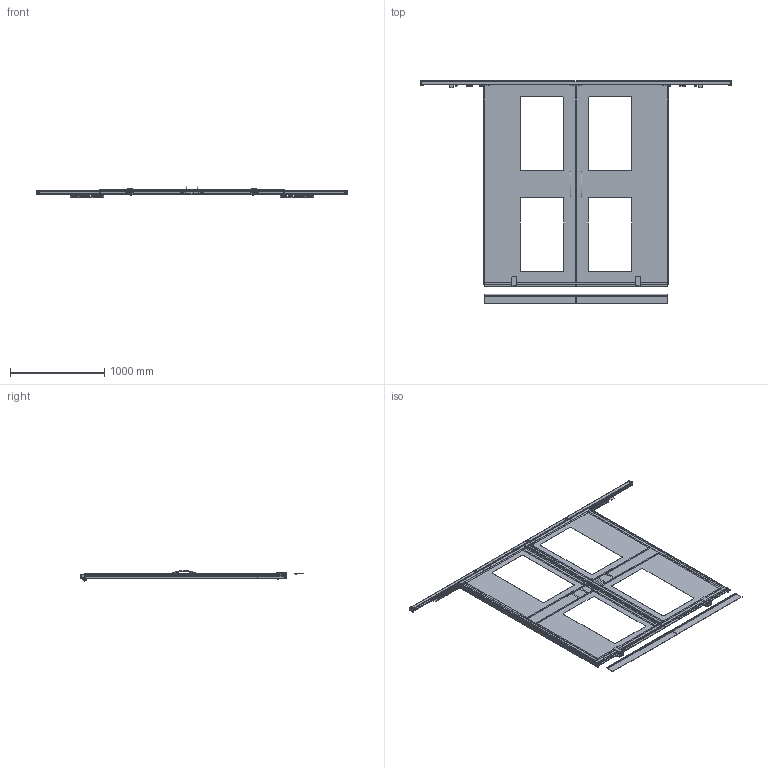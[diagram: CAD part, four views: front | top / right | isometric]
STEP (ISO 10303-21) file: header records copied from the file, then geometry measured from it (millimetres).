
FILE_DESCRIPTION((''),'2;1');
FILE_NAME('C:\Users\KYLEB\Desktop\Aisle Containment Doors\ACD840ES\ACD840ES.stp','2011-06-27T10:07:28',('KyleB'),(''),'Autodesk Inventor 2011','Autodesk Inventor 2011','');
FILE_SCHEMA(('AUTOMOTIVE_DESIGN { 1 0 10303 214 1 1 1 1 }'));
Length unit declared in the file: inch
Products named in the file (54): I011119; I011128; I011131; I011142; I011130; I011129; I011144; P1006-1420; 14-20X500; I011120; I011121; I011122; I011126; SS0322; I011127; I011136; I012493; XM01 [LENGTH=81.875 in]; I011145; H01-068; P2749N; P2-41; H03-015; H01-047; LIB-14485; I011123; I011124; I011125; I011143; I011143 6'; I011143 11in; I011134; I011135; I011137; I011140; FH0328; I011141; 10-32STOPNUT; 1420X12CARR; 1420FLANGE NUT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
Assembly tree (139 placements, depth 5):
  I011119
    I011128
      I011131
      I011142
      I011130
      I011129
    I011144  x2
    P1006-1420  x2
    14-20X500  x2
    I011120
      I011121
        I011122
        I011126
          I011126
          SS0322  x8
        I011127
        I011136
        I012493  x2
      XM01 [LENGTH=81.875 in]
      I011145  x2
        I011145
        SS0322
      H01-068  x6
      P2749N  x2
      P2-41  x2
      H03-015  x2
      H01-047  x2
      LIB-14485
    I011123
      I011124
        I011125
        I011126
          I011126
          SS0322  x8
        I011127
        I011136
        I012493  x2
      I011145  x2
        I011145
        SS0322
      H01-068  x6
      P2749N  x2
      P2-41  x2
      LIB-14485
      H01-047  x2
      H03-015  x2
      XM01 [LENGTH=81.875 in]
    I011143  x2
      I011143 11in
    I011134  x2
    I011135  x2
    I011137
      I011140
        I011140
        FH0328  x2
      I011141
      10-32STOPNUT  x2
      1420X12CARR
      1420FLANGE NUT
      10ZNWSHR  x2
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Bounding box: 3292.86 x 2363.55 x 118.44 mm (x, y, z)
Volume: 10842992.8 mm3; surface area: 11351864.2 mm2
Topology: 140 solids, 144 shells, 3301 faces, 8047 edges, 5138 vertices
Faces by surface type: plane 1827, cylinder 1040, bspline 164, torus 156, sphere 80, cone 34
Full cylindrical faces by diameter (mm): 3.251 x16, 3.302 x4, 3.962 x20, 4.166 x8, 4.496 x12, 4.763 x8, 4.775 x8, 4.801 x4, 4.826 x20, 4.978 x2, 5.537 x12, 6.35 x48, 6.401 x4, 6.502 x4, 7.144 x4, 7.925 x4, 7.938 x12, 8.001 x12, 8.179 x4, 8.636 x20, 9.525 x24, 10.16 x4, 12.319 x2, 12.7 x4, 14.288 x4, 15.875 x4, 22.225 x12, 30.163 x8
Entity records: 40939 total; most frequent: CARTESIAN_POINT 8775, DIRECTION 6531, ORIENTED_EDGE 5942, EDGE_CURVE 2971, AXIS2_PLACEMENT_3D 2301, VERTEX_POINT 1972, VECTOR 1929, LINE 1929
